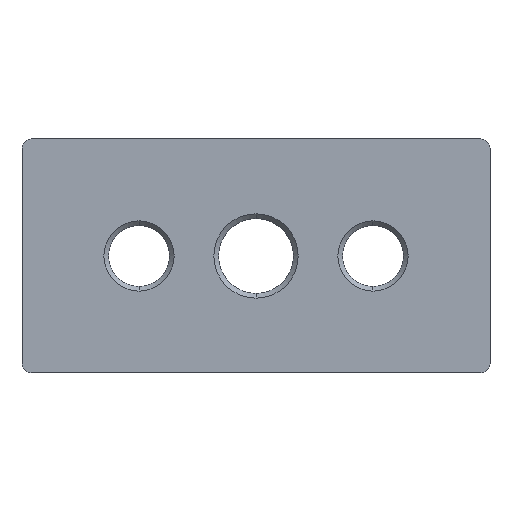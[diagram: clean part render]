
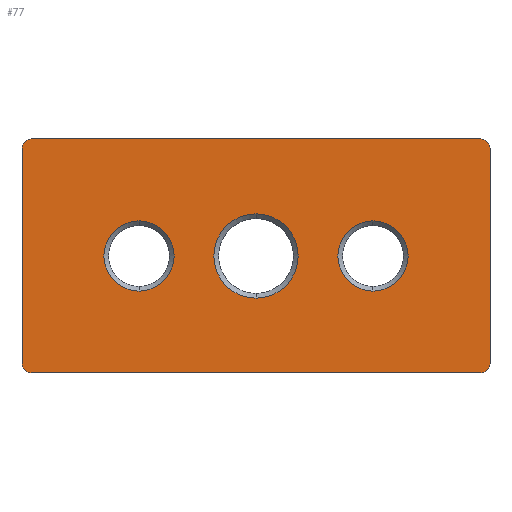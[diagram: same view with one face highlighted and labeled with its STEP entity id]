
A CAD part, front view. The second image highlights one B-rep face of the part: STEP entity #77.
In plain terms, the highlighted planar face has unit normal (0, -1, 0).
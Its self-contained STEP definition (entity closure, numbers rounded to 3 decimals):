
#10 = ORIENTED_EDGE ( 'NONE', *, *, #922, .T. ) ;
#12 = DIRECTION ( 'NONE',  ( 0., 0., 1. ) ) ;
#14 = ORIENTED_EDGE ( 'NONE', *, *, #561, .F. ) ;
#16 = DIRECTION ( 'NONE',  ( 0., 0., 1. ) ) ;
#47 = CARTESIAN_POINT ( 'NONE',  ( 0., -19., 0. ) ) ;
#48 = ORIENTED_EDGE ( 'NONE', *, *, #92, .T. ) ;
#50 = DIRECTION ( 'NONE',  ( 0., 1., 0. ) ) ;
#58 = DIRECTION ( 'NONE',  ( 0., 0., -1. ) ) ;
#65 = FACE_BOUND ( 'NONE', #890, .T. ) ;
#77 = ADVANCED_FACE ( 'NONE', ( #65, #703, #498, #117 ), #1045, .F. ) ;
#83 = CARTESIAN_POINT ( 'NONE',  ( -25., -19., 0. ) ) ;
#86 = ORIENTED_EDGE ( 'NONE', *, *, #361, .T. ) ;
#91 = CARTESIAN_POINT ( 'NONE',  ( -25., -19., -7.5 ) ) ;
#92 = EDGE_CURVE ( 'NONE', #908, #350, #259, .T. ) ;
#98 = CARTESIAN_POINT ( 'NONE',  ( -25., -19., 0. ) ) ;
#117 = FACE_OUTER_BOUND ( 'NONE', #608, .T. ) ;
#119 = DIRECTION ( 'NONE',  ( 0., -1., 0. ) ) ;
#132 = CARTESIAN_POINT ( 'NONE',  ( -48., -19., -23. ) ) ;
#157 = CARTESIAN_POINT ( 'NONE',  ( 48., -19., 23. ) ) ;
#166 = DIRECTION ( 'NONE',  ( 0., 0., 1. ) ) ;
#181 = DIRECTION ( 'NONE',  ( 0., 0., 1. ) ) ;
#186 = ORIENTED_EDGE ( 'NONE', *, *, #290, .T. ) ;
#187 = CIRCLE ( 'NONE', #1015, 2. ) ;
#191 = CARTESIAN_POINT ( 'NONE',  ( -50., -19., 23. ) ) ;
#193 = CARTESIAN_POINT ( 'NONE',  ( 25., -19., 7.5 ) ) ;
#194 = ORIENTED_EDGE ( 'NONE', *, *, #366, .T. ) ;
#204 = EDGE_CURVE ( 'NONE', #962, #332, #822, .T. ) ;
#209 = VERTEX_POINT ( 'NONE', #265 ) ;
#217 = DIRECTION ( 'NONE',  ( 0., 0., 1. ) ) ;
#225 = AXIS2_PLACEMENT_3D ( 'NONE', #83, #642, #166 ) ;
#230 = ORIENTED_EDGE ( 'NONE', *, *, #646, .T. ) ;
#240 = DIRECTION ( 'NONE',  ( 0., 0., 1. ) ) ;
#259 = CIRCLE ( 'NONE', #792, 7.5 ) ;
#262 = VERTEX_POINT ( 'NONE', #491 ) ;
#264 = VECTOR ( 'NONE', #291, 1000. ) ;
#265 = CARTESIAN_POINT ( 'NONE',  ( 50., -19., -23. ) ) ;
#268 = AXIS2_PLACEMENT_3D ( 'NONE', #132, #692, #217 ) ;
#273 = AXIS2_PLACEMENT_3D ( 'NONE', #880, #398, #967 ) ;
#289 = ORIENTED_EDGE ( 'NONE', *, *, #982, .F. ) ;
#290 = EDGE_CURVE ( 'NONE', #350, #908, #748, .T. ) ;
#291 = DIRECTION ( 'NONE',  ( 0., 0., 1. ) ) ;
#308 = EDGE_CURVE ( 'NONE', #709, #262, #556, .T. ) ;
#312 = CIRCLE ( 'NONE', #625, 2. ) ;
#332 = VERTEX_POINT ( 'NONE', #738 ) ;
#350 = VERTEX_POINT ( 'NONE', #499 ) ;
#352 = VECTOR ( 'NONE', #805, 1000. ) ;
#361 = EDGE_CURVE ( 'NONE', #332, #962, #484, .T. ) ;
#366 = EDGE_CURVE ( 'NONE', #673, #745, #691, .T. ) ;
#385 = VERTEX_POINT ( 'NONE', #746 ) ;
#398 = DIRECTION ( 'NONE',  ( 0., 1., 0. ) ) ;
#404 = VERTEX_POINT ( 'NONE', #827 ) ;
#424 = CARTESIAN_POINT ( 'NONE',  ( 0., -19., 0. ) ) ;
#426 = VERTEX_POINT ( 'NONE', #191 ) ;
#439 = ORIENTED_EDGE ( 'NONE', *, *, #204, .T. ) ;
#446 = ORIENTED_EDGE ( 'NONE', *, *, #308, .F. ) ;
#458 = VERTEX_POINT ( 'NONE', #915 ) ;
#484 = CIRCLE ( 'NONE', #921, 9. ) ;
#491 = CARTESIAN_POINT ( 'NONE',  ( 48., -19., 25. ) ) ;
#494 = DIRECTION ( 'NONE',  ( 0., 1., 0. ) ) ;
#497 = DIRECTION ( 'NONE',  ( 0., -1., 0. ) ) ;
#498 = FACE_BOUND ( 'NONE', #1007, .T. ) ;
#499 = CARTESIAN_POINT ( 'NONE',  ( 25., -19., -7.5 ) ) ;
#503 = AXIS2_PLACEMENT_3D ( 'NONE', #989, #497, #16 ) ;
#504 = DIRECTION ( 'NONE',  ( 0., 0., 1. ) ) ;
#537 = CARTESIAN_POINT ( 'NONE',  ( 0., -19., 9. ) ) ;
#539 = EDGE_CURVE ( 'NONE', #458, #209, #312, .T. ) ;
#546 = LINE ( 'NONE', #624, #1012 ) ;
#556 = LINE ( 'NONE', #650, #939 ) ;
#559 = CIRCLE ( 'NONE', #503, 2. ) ;
#560 = CARTESIAN_POINT ( 'NONE',  ( -25., -19., 7.5 ) ) ;
#561 = EDGE_CURVE ( 'NONE', #385, #426, #905, .T. ) ;
#565 = CARTESIAN_POINT ( 'NONE',  ( -50., -19., -25. ) ) ;
#577 = CARTESIAN_POINT ( 'NONE',  ( -48., -19., -25. ) ) ;
#592 = ORIENTED_EDGE ( 'NONE', *, *, #756, .T. ) ;
#603 = CIRCLE ( 'NONE', #268, 2. ) ;
#606 = CARTESIAN_POINT ( 'NONE',  ( 48., -19., -23. ) ) ;
#608 = EDGE_LOOP ( 'NONE', ( #723, #839, #289, #230, #446, #592, #14, #10 ) ) ;
#624 = CARTESIAN_POINT ( 'NONE',  ( 50., -19., -25. ) ) ;
#625 = AXIS2_PLACEMENT_3D ( 'NONE', #606, #119, #681 ) ;
#642 = DIRECTION ( 'NONE',  ( 0., 1., 0. ) ) ;
#644 = AXIS2_PLACEMENT_3D ( 'NONE', #983, #494, #12 ) ;
#646 = EDGE_CURVE ( 'NONE', #404, #262, #187, .T. ) ;
#650 = CARTESIAN_POINT ( 'NONE',  ( -50., -19., 25. ) ) ;
#660 = DIRECTION ( 'NONE',  ( 0., 1., 0. ) ) ;
#673 = VERTEX_POINT ( 'NONE', #560 ) ;
#681 = DIRECTION ( 'NONE',  ( 0., 0., 1. ) ) ;
#686 = EDGE_LOOP ( 'NONE', ( #86, #439 ) ) ;
#691 = CIRCLE ( 'NONE', #981, 7.5 ) ;
#692 = DIRECTION ( 'NONE',  ( 0., -1., 0. ) ) ;
#698 = EDGE_CURVE ( 'NONE', #745, #673, #1001, .T. ) ;
#700 = EDGE_CURVE ( 'NONE', #458, #783, #773, .T. ) ;
#703 = FACE_BOUND ( 'NONE', #686, .T. ) ;
#709 = VERTEX_POINT ( 'NONE', #801 ) ;
#717 = DIRECTION ( 'NONE',  ( 0., -1., 0. ) ) ;
#723 = ORIENTED_EDGE ( 'NONE', *, *, #700, .F. ) ;
#732 = DIRECTION ( 'NONE',  ( 1., 0., 0. ) ) ;
#738 = CARTESIAN_POINT ( 'NONE',  ( 0., -19., -9. ) ) ;
#745 = VERTEX_POINT ( 'NONE', #91 ) ;
#746 = CARTESIAN_POINT ( 'NONE',  ( -50., -19., -23. ) ) ;
#748 = CIRCLE ( 'NONE', #644, 7.5 ) ;
#756 = EDGE_CURVE ( 'NONE', #709, #426, #559, .T. ) ;
#763 = DIRECTION ( 'NONE',  ( 0., 0., 1. ) ) ;
#773 = LINE ( 'NONE', #565, #352 ) ;
#774 = CARTESIAN_POINT ( 'NONE',  ( -50., -19., -25. ) ) ;
#783 = VERTEX_POINT ( 'NONE', #577 ) ;
#792 = AXIS2_PLACEMENT_3D ( 'NONE', #933, #50, #852 ) ;
#801 = CARTESIAN_POINT ( 'NONE',  ( -48., -19., 25. ) ) ;
#805 = DIRECTION ( 'NONE',  ( -1., 0., 0. ) ) ;
#822 = CIRCLE ( 'NONE', #273, 9. ) ;
#827 = CARTESIAN_POINT ( 'NONE',  ( 50., -19., 23. ) ) ;
#839 = ORIENTED_EDGE ( 'NONE', *, *, #539, .T. ) ;
#845 = AXIS2_PLACEMENT_3D ( 'NONE', #47, #947, #763 ) ;
#852 = DIRECTION ( 'NONE',  ( 0., 0., 1. ) ) ;
#880 = CARTESIAN_POINT ( 'NONE',  ( 0., -19., 0. ) ) ;
#890 = EDGE_LOOP ( 'NONE', ( #186, #48 ) ) ;
#905 = LINE ( 'NONE', #774, #264 ) ;
#908 = VERTEX_POINT ( 'NONE', #193 ) ;
#915 = CARTESIAN_POINT ( 'NONE',  ( 48., -19., -25. ) ) ;
#921 = AXIS2_PLACEMENT_3D ( 'NONE', #424, #994, #504 ) ;
#922 = EDGE_CURVE ( 'NONE', #385, #783, #603, .T. ) ;
#933 = CARTESIAN_POINT ( 'NONE',  ( 25., -19., 0. ) ) ;
#939 = VECTOR ( 'NONE', #732, 1000. ) ;
#947 = DIRECTION ( 'NONE',  ( 0., 1., 0. ) ) ;
#960 = ORIENTED_EDGE ( 'NONE', *, *, #698, .T. ) ;
#962 = VERTEX_POINT ( 'NONE', #537 ) ;
#967 = DIRECTION ( 'NONE',  ( 0., 0., 1. ) ) ;
#981 = AXIS2_PLACEMENT_3D ( 'NONE', #98, #660, #181 ) ;
#982 = EDGE_CURVE ( 'NONE', #404, #209, #546, .T. ) ;
#983 = CARTESIAN_POINT ( 'NONE',  ( 25., -19., 0. ) ) ;
#989 = CARTESIAN_POINT ( 'NONE',  ( -48., -19., 23. ) ) ;
#994 = DIRECTION ( 'NONE',  ( 0., 1., 0. ) ) ;
#1001 = CIRCLE ( 'NONE', #225, 7.5 ) ;
#1007 = EDGE_LOOP ( 'NONE', ( #960, #194 ) ) ;
#1012 = VECTOR ( 'NONE', #58, 1000. ) ;
#1015 = AXIS2_PLACEMENT_3D ( 'NONE', #157, #717, #240 ) ;
#1045 = PLANE ( 'NONE',  #845 ) ;
